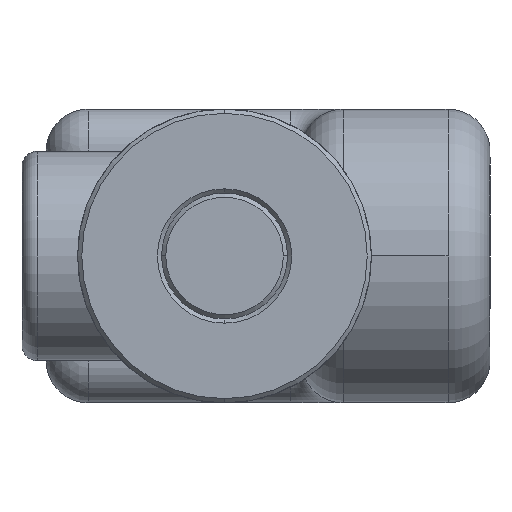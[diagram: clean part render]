
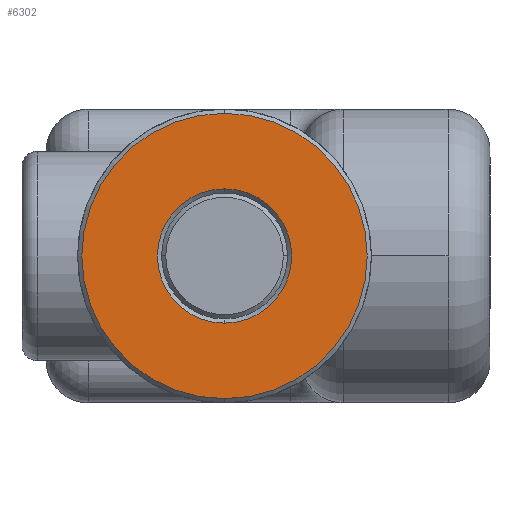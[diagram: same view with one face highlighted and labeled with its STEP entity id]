
A CAD part, front view. The second image highlights one B-rep face of the part: STEP entity #6302.
In plain terms, the highlighted planar face has unit normal (0, -1, 0).
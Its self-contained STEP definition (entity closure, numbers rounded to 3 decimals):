
#417 = DIRECTION ( 'NONE',  ( 0., 1., 0. ) ) ;
#419 = AXIS2_PLACEMENT_3D ( 'NONE', #2922, #417, #10199 ) ;
#693 = CARTESIAN_POINT ( 'NONE',  ( 0., 0., 0. ) ) ;
#1258 = VERTEX_POINT ( 'NONE', #8835 ) ;
#1283 = CARTESIAN_POINT ( 'NONE',  ( 0., 0., 3.2 ) ) ;
#1627 = EDGE_CURVE ( 'NONE', #6845, #4154, #5985, .T. ) ;
#1799 = AXIS2_PLACEMENT_3D ( 'NONE', #693, #13443, #3419 ) ;
#2922 = CARTESIAN_POINT ( 'NONE',  ( 0., 0., 0. ) ) ;
#3419 = DIRECTION ( 'NONE',  ( 0., 0., 1. ) ) ;
#4135 = CIRCLE ( 'NONE', #419, 3.2 ) ;
#4154 = VERTEX_POINT ( 'NONE', #1283 ) ;
#4438 = FACE_BOUND ( 'NONE', #16366, .T. ) ;
#4947 = CARTESIAN_POINT ( 'NONE',  ( 0., 0., -3.2 ) ) ;
#5649 = DIRECTION ( 'NONE',  ( 0., 1., 0. ) ) ;
#5899 = DIRECTION ( 'NONE',  ( 0., 0., 1. ) ) ;
#5985 = CIRCLE ( 'NONE', #16298, 3.2 ) ;
#6302 = ADVANCED_FACE ( 'NONE', ( #4438, #8394 ), #6998, .F. ) ;
#6791 = AXIS2_PLACEMENT_3D ( 'NONE', #11212, #9886, #15330 ) ;
#6845 = VERTEX_POINT ( 'NONE', #4947 ) ;
#6998 = PLANE ( 'NONE',  #1799 ) ;
#7947 = DIRECTION ( 'NONE',  ( 0., -1., 0. ) ) ;
#8394 = FACE_OUTER_BOUND ( 'NONE', #15997, .T. ) ;
#8529 = CARTESIAN_POINT ( 'NONE',  ( 0., 0., 0. ) ) ;
#8835 = CARTESIAN_POINT ( 'NONE',  ( 0., 0., -6.8 ) ) ;
#9732 = EDGE_CURVE ( 'NONE', #15366, #1258, #16319, .T. ) ;
#9886 = DIRECTION ( 'NONE',  ( 0., -1., 0. ) ) ;
#10128 = EDGE_CURVE ( 'NONE', #1258, #15366, #15529, .T. ) ;
#10199 = DIRECTION ( 'NONE',  ( 0., 0., 1. ) ) ;
#10440 = ORIENTED_EDGE ( 'NONE', *, *, #1627, .T. ) ;
#11212 = CARTESIAN_POINT ( 'NONE',  ( 0., 0., 0. ) ) ;
#11284 = CARTESIAN_POINT ( 'NONE',  ( 0., 0., 6.8 ) ) ;
#11868 = ORIENTED_EDGE ( 'NONE', *, *, #15434, .T. ) ;
#12071 = DIRECTION ( 'NONE',  ( 0., 0., 1. ) ) ;
#12536 = ORIENTED_EDGE ( 'NONE', *, *, #10128, .T. ) ;
#13057 = CARTESIAN_POINT ( 'NONE',  ( 0., 0., 0. ) ) ;
#13443 = DIRECTION ( 'NONE',  ( 0., 1., 0. ) ) ;
#14463 = AXIS2_PLACEMENT_3D ( 'NONE', #13057, #7947, #12071 ) ;
#15330 = DIRECTION ( 'NONE',  ( 0., 0., 1. ) ) ;
#15366 = VERTEX_POINT ( 'NONE', #11284 ) ;
#15434 = EDGE_CURVE ( 'NONE', #4154, #6845, #4135, .T. ) ;
#15529 = CIRCLE ( 'NONE', #14463, 6.8 ) ;
#15652 = ORIENTED_EDGE ( 'NONE', *, *, #9732, .T. ) ;
#15997 = EDGE_LOOP ( 'NONE', ( #15652, #12536 ) ) ;
#16298 = AXIS2_PLACEMENT_3D ( 'NONE', #8529, #5649, #5899 ) ;
#16319 = CIRCLE ( 'NONE', #6791, 6.8 ) ;
#16366 = EDGE_LOOP ( 'NONE', ( #10440, #11868 ) ) ;
